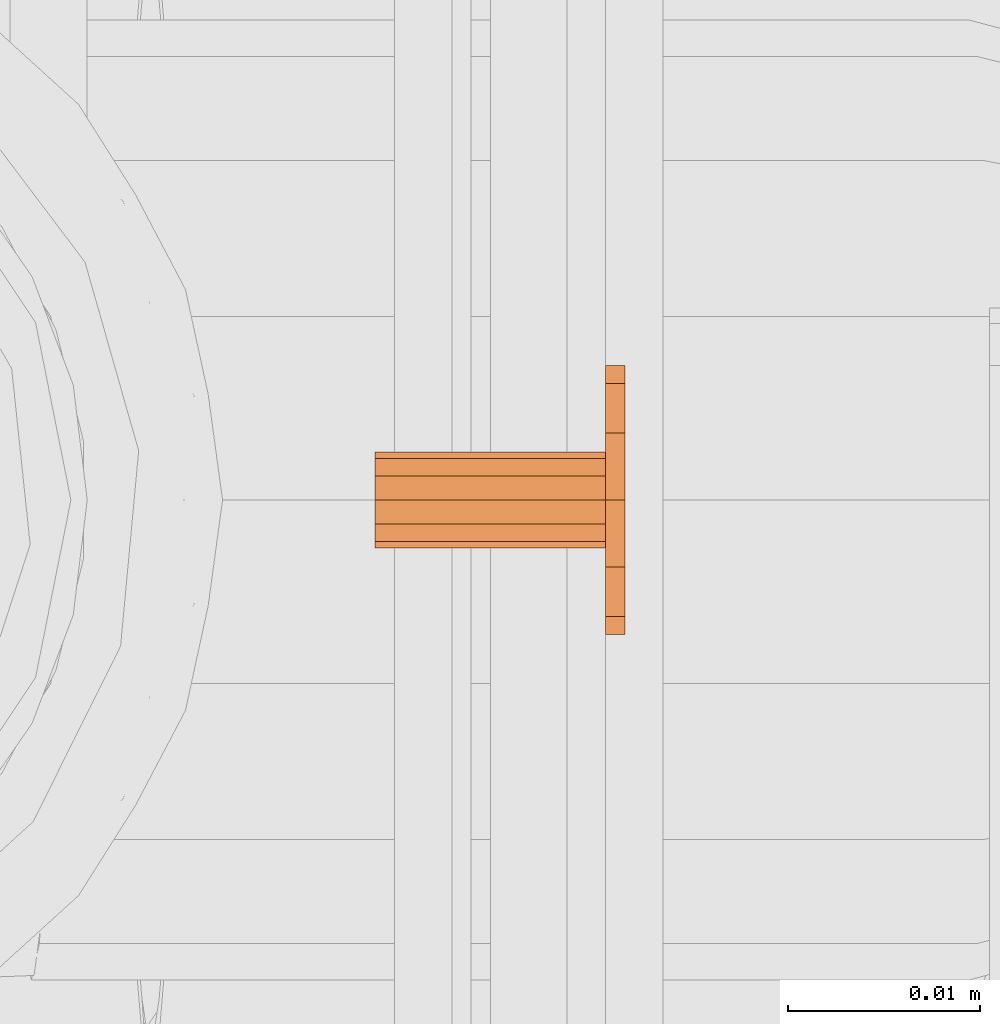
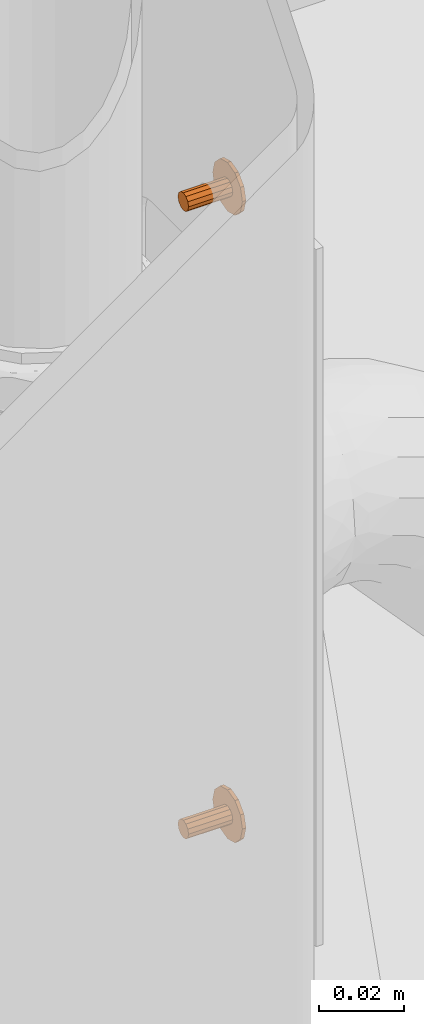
# One storey, part 130 of 162: 2 proxies.
"""IFC2X3 building model written with IfcOpenShell, lengths in millimetres."""

import ifcopenshell
import ifcopenshell.guid

model = None  # the IFC model being written
_history = None  # IfcOwnerHistory: only IFC2X3 demands one
_inside = {}  # id of a spatial element -> (the spatial element, [elements in it])
_under = {}  # id of a project, library or spatial element -> (it, [spatial elements below it])
_declared = {}  # id of a project -> (the project, [libraries it declares])
_typed = {}  # id of a type object -> (the type object, [elements of that type])
_made_of = {}  # id of a material, layer set ... -> (it, [elements and type objects made of it])


def new_model(schema):
    """Start an empty IFC model of exactly this schema.

    Asked for "IFC4X3", IfcOpenShell would pick the latest addendum, in which some entities
    have other attributes; the version numbers below select the first issue.
    IFC2X3 requires an IfcOwnerHistory on every rooted entity: one is made here for all.
    """
    global model, _history
    if schema == "IFC4X3":
        model = ifcopenshell.file(schema_version=(4, 3, 0, 0))
    else:
        model = ifcopenshell.file(schema=schema)
    _inside.clear()
    _under.clear()
    _declared.clear()
    _typed.clear()
    _made_of.clear()
    _history = None
    if model.schema == "IFC2X3":
        org = make("IfcOrganization", Name="unknown")
        user = make(
            "IfcPersonAndOrganization",
            ThePerson=make("IfcPerson", FamilyName="unknown"),
            TheOrganization=org,
        )
        app = make(
            "IfcApplication",
            ApplicationDeveloper=org,
            Version="unknown",
            ApplicationFullName="unknown",
            ApplicationIdentifier="unknown",
        )
        _history = make(
            "IfcOwnerHistory",
            OwningUser=user,
            OwningApplication=app,
            ChangeAction="ADDED",
            CreationDate=0,
        )
    return model


def make(cls, **values):
    """One entity of the class cls with the attributes given. An attribute that is None is left unset."""
    return model.create_entity(
        cls, **{name: value for name, value in values.items() if value is not None}
    )


def entity(cls, *values):
    """Any entity or typed value of the class cls, its attributes in the order of the schema. None: left unset."""
    e = model.create_entity(cls)
    for i, value in enumerate(values):
        if value is not None:
            e[i] = value
    return e


def rooted(cls, **values):
    """An entity with a GlobalId (a new one), such as an element, a storey or a relation."""
    return make(cls, GlobalId=ifcopenshell.guid.new(), OwnerHistory=_history, **values)


def si_unit(unit_type, name, prefix=None):
    """IfcSIUnit, for example si_unit("LENGTHUNIT", "METRE", prefix="MILLI")."""
    return make("IfcSIUnit", UnitType=unit_type, Prefix=prefix, Name=name)


def converted_unit(unit_type, name, factor, base, dimensions=None, offset=None):
    """IfcConversionBasedUnit, such as the inch: factor (a typed value) times the base unit."""
    return make(
        "IfcConversionBasedUnit"
        if offset is None
        else "IfcConversionBasedUnitWithOffset",
        ConversionOffset=offset,
        Dimensions=None
        if dimensions is None
        else entity("IfcDimensionalExponents", *dimensions),
        UnitType=unit_type,
        Name=name,
        ConversionFactor=make(
            "IfcMeasureWithUnit", ValueComponent=factor, UnitComponent=base
        ),
    )


def assignment(units):
    """IfcUnitAssignment: the units of a project."""
    return None if units is None else make("IfcUnitAssignment", Units=units)


def point(xyz):
    """IfcCartesianPoint."""
    return None if xyz is None else make("IfcCartesianPoint", Coordinates=xyz)


def direction(xyz):
    """IfcDirection."""
    return None if xyz is None else make("IfcDirection", DirectionRatios=xyz)


def frame(location, z_axis=None, x_axis=None):
    """IfcAxis2Placement3D, a coordinate frame: its origin and axes. An axis left out is left unset."""
    return make(
        "IfcAxis2Placement3D",
        Location=point(location),
        Axis=direction(z_axis),
        RefDirection=direction(x_axis),
    )


def origin_with_axes():
    """The frame at (0, 0, 0) with the z axis (0, 0, 1) and the x axis (1, 0, 0) written out."""
    return frame((0.0, 0.0, 0.0), z_axis=(0.0, 0.0, 1.0), x_axis=(1.0, 0.0, 0.0))


def place(relative_to, where):
    """IfcLocalPlacement: puts the frame where relative to a parent placement (None: the world)."""
    return make(
        "IfcLocalPlacement", PlacementRelTo=relative_to, RelativePlacement=where
    )


def context(
    kind, dimensions, precision=None, world=None, true_north=None, identifier=None
):
    """IfcGeometricRepresentationContext, for example the 3D "Model" context."""
    return make(
        "IfcGeometricRepresentationContext",
        ContextIdentifier=identifier,
        ContextType=kind,
        CoordinateSpaceDimension=dimensions,
        Precision=precision,
        WorldCoordinateSystem=world,
        TrueNorth=true_north,
    )


def project(units=None, contexts=None):
    """IfcProject with its units and contexts."""
    return rooted(
        "IfcProject",
        Name="project",
        RepresentationContexts=contexts,
        UnitsInContext=assignment(units),
    )


def spatial(cls, under=None, at=None, **own):
    """A site, building, storey or space (cls), placed at a placement, below another one or the project."""
    s = rooted(cls, ObjectPlacement=at, **own)
    if under is not None:
        _under.setdefault(under.id(), (under, []))[1].append(s)
    return s


def faces_of(points, faces, orient=None, outer=None):
    """IfcFace entities. A face is a list of loops; a loop is a list of indices into points, from 0.

    orient and outer hold one flag for each loop. By default every Orientation is true, the
    first loop of a face is its IfcFaceOuterBound and the others are IfcFaceBound.
    """
    made = []
    for i, loops in enumerate(faces):
        bounds = []
        for j, loop in enumerate(loops):
            is_outer = j == 0 if outer is None else outer[i][j]
            bounds.append(
                make(
                    "IfcFaceOuterBound" if is_outer else "IfcFaceBound",
                    Bound=make("IfcPolyLoop", Polygon=[points[k] for k in loop]),
                    Orientation=True if orient is None else orient[i][j],
                )
            )
        made.append(make("IfcFace", Bounds=bounds))
    return made


def faceted_brep(points, faces, orient=None, outer=None, voids=None):
    """IfcFacetedBrep: a solid bounded by flat faces; with voids (closed shells), ...WithVoids."""
    shared = [point(p) for p in points]
    hull = make("IfcClosedShell", CfsFaces=faces_of(shared, faces, orient, outer))
    if voids is None:
        return make("IfcFacetedBrep", Outer=hull)
    return make(
        "IfcFacetedBrepWithVoids",
        Outer=hull,
        Voids=[
            make(cls, CfsFaces=faces_of(shared, fs, o, b)) for cls, fs, o, b in voids
        ],
    )


def shape(context_of_items, identifier, shape_type, items):
    """IfcShapeRepresentation: the items that make up one representation, for example the "Body"."""
    return make(
        "IfcShapeRepresentation",
        ContextOfItems=context_of_items,
        RepresentationIdentifier=identifier,
        RepresentationType=shape_type,
        Items=items,
    )


def material(Name=None, Category=None):
    """IfcMaterial."""
    return make("IfcMaterial", Name=Name, Category=Category)


def made_of(thing, what):
    """Note that an element or type object is made of a material, layer set ...; save() writes the relation."""
    if what is not None:
        _made_of.setdefault(what.id(), (what, []))[1].append(thing)
    return thing


def element(
    cls,
    number,
    at=None,
    inside=None,
    cuts=None,
    type_object=None,
    material=None,
    context=None,
    identifier="Body",
    shape_type=None,
    held_by="IfcProductDefinitionShape",
    body=None,
    shapes=None,
    **own,
):
    """One element of the class cls, such as IfcWall. Its Tag is "e" and its number.

    at: its placement. inside: the storey or other place that contains it. cuts: it is an
    opening in that element (IfcRelVoidsElement). A single representation is given by context,
    identifier, shape_type and body (its items); several are given by shapes. held_by: the class
    of the entity that holds the representations. save() writes the other relations.
    """
    e = rooted(cls, Tag="e%d" % number, ObjectPlacement=at, **own)
    if body is not None:
        shapes = [shape(context, identifier, shape_type, body)]
    if shapes is not None:
        e.Representation = make(held_by, Representations=shapes)
    if inside is not None:
        _inside.setdefault(inside.id(), (inside, []))[1].append(e)
    if cuts is not None:
        rooted(
            "IfcRelVoidsElement", RelatingBuildingElement=cuts, RelatedOpeningElement=e
        )
    if type_object is not None:
        _typed.setdefault(type_object.id(), (type_object, []))[1].append(e)
    return made_of(e, material)


def aggregate(whole, parts):
    """IfcRelAggregates: a whole, such as a stair, and the parts it consists of."""
    return rooted("IfcRelAggregates", RelatingObject=whole, RelatedObjects=parts)


def save(model, path):
    """Write the relations noted so far, then the file.

    IfcRelAggregates (storeys below a building ...), IfcRelContainedInSpatialStructure (elements
    in a storey), IfcRelDefinesByType, IfcRelAssociatesMaterial and IfcRelDeclares: one each for
    every whole, place, type object, material and project.
    """
    for whole, parts in _under.values():
        aggregate(whole, parts)
    for where, things in _inside.values():
        rooted(
            "IfcRelContainedInSpatialStructure",
            RelatedElements=things,
            RelatingStructure=where,
        )
    for kind, things in _typed.values():
        rooted("IfcRelDefinesByType", RelatedObjects=things, RelatingType=kind)
    for what, things in _made_of.values():
        rooted("IfcRelAssociatesMaterial", RelatedObjects=things, RelatingMaterial=what)
    for by, libraries in _declared.values():
        rooted("IfcRelDeclares", RelatingContext=by, RelatedDefinitions=libraries)
    model.write(path)


model = new_model("IFC2X3")

# Units and contexts
model_context = context("Model", 3, precision=1e-09, world=origin_with_axes())
ifc_project = project(units=[si_unit("LENGTHUNIT", "METRE", prefix="MILLI"), si_unit("AREAUNIT", "SQUARE_METRE"), si_unit("VOLUMEUNIT", "CUBIC_METRE"), converted_unit("PLANEANGLEUNIT", "DEGREE", entity("IfcPlaneAngleMeasure", 0.01745329), si_unit("PLANEANGLEUNIT", "RADIAN"), dimensions=[0, 0, 0, 0, 0, 0, 0])], contexts=[model_context])

# Site, building, storey
site_placement = place(None, origin_with_axes())
site = spatial("IfcSite", under=ifc_project, at=site_placement, Name="Hermannstra?e 1a, 60318 Frankfurt", CompositionType="ELEMENT")
building_placement = place(site_placement, origin_with_axes())
building = spatial("IfcBuilding", under=site, at=building_placement, Name="Struktur 1", CompositionType="ELEMENT")
storey_placement = place(building_placement, origin_with_axes())
storey = spatial("IfcBuildingStorey", under=building, at=storey_placement, Name="Default Storey", CompositionType="ELEMENT", Elevation=0.0)

# Proxies
ifc_material = material(Name="Kein")
proxy_1_placement = place(None, origin_with_axes())
element("IfcBuildingElementProxy", 1, at=proxy_1_placement, inside=storey, material=ifc_material, ObjectType="-", context=model_context, shape_type="Brep", body=[
    faceted_brep([(5526.309368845, 1523.609369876, 150.0), (5525.309368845, 1523.609369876, 150.0), (5525.309368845, 1524.54719205, 146.5), (5526.309368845, 1524.54719205, 146.5), (5526.309368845, 1524.54719205, 153.5), (5525.309368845, 1524.54719205, 153.5), (5526.309368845, 1536.671547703, 153.5), (5526.309368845, 1534.109369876, 156.062177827), (5526.309368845, 1530.609369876, 157.0), (5526.309368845, 1527.109369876, 156.062177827), (5526.309368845, 1527.109369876, 143.937822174), (5526.309368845, 1530.609369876, 143.0), (5526.309368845, 1534.109369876, 143.937822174), (5526.309368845, 1536.671547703, 146.5), (5526.309368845, 1537.609369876, 150.0), (5525.309368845, 1536.671547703, 146.5), (5525.309368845, 1534.109369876, 143.937822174), (5525.309368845, 1530.609369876, 143.0), (5525.309368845, 1527.109369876, 143.937822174), (5525.309368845, 1527.109369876, 156.062177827), (5525.309368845, 1530.609369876, 157.0), (5525.309368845, 1534.109369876, 156.062177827), (5525.309368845, 1536.671547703, 153.5), (5525.309368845, 1537.609369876, 150.0)], [[[0, 1, 2, 3]], [[1, 0, 4, 5]], [[6, 7, 8, 9, 4, 0, 3, 10, 11, 12, 13, 14]], [[15, 16, 17, 18, 2, 1, 5, 19, 20, 21, 22, 23]], [[3, 2, 18, 10]], [[5, 4, 9, 19]], [[17, 11, 10, 18]], [[16, 12, 11, 17]], [[19, 9, 8, 20]], [[13, 15, 23, 14]], [[12, 16, 15, 13]], [[14, 23, 22, 6]], [[20, 8, 7, 21]], [[6, 22, 21, 7]]]),
    faceted_brep([(5525.309368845, 1528.109369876, 150.0), (5513.309368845, 1528.109369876, 150.0), (5513.309368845, 1528.444306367, 148.75), (5525.309368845, 1528.444306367, 148.75), (5525.309368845, 1528.444306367, 151.25), (5513.309368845, 1528.444306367, 151.25), (5525.309368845, 1532.774433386, 151.25), (5525.309368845, 1531.859369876, 152.16506351), (5525.309368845, 1530.609369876, 152.5), (5525.309368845, 1529.359369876, 152.16506351), (5525.309368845, 1529.359369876, 147.834936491), (5525.309368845, 1530.609369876, 147.5), (5525.309368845, 1531.859369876, 147.834936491), (5525.309368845, 1532.774433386, 148.75), (5525.309368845, 1533.109369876, 150.0), (5513.309368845, 1532.774433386, 148.75), (5513.309368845, 1531.859369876, 147.834936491), (5513.309368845, 1530.609369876, 147.5), (5513.309368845, 1529.359369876, 147.834936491), (5513.309368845, 1529.359369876, 152.16506351), (5513.309368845, 1530.609369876, 152.5), (5513.309368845, 1531.859369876, 152.16506351), (5513.309368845, 1532.774433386, 151.25), (5513.309368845, 1533.109369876, 150.0)], [[[0, 1, 2, 3]], [[1, 0, 4, 5]], [[6, 7, 8, 9, 4, 0, 3, 10, 11, 12, 13, 14]], [[15, 16, 17, 18, 2, 1, 5, 19, 20, 21, 22, 23]], [[3, 2, 18, 10]], [[5, 4, 9, 19]], [[17, 11, 10, 18]], [[16, 12, 11, 17]], [[19, 9, 8, 20]], [[13, 15, 23, 14]], [[12, 16, 15, 13]], [[14, 23, 22, 6]], [[20, 8, 7, 21]], [[6, 22, 21, 7]]]),
])
proxy_2_placement = place(None, origin_with_axes())
element("IfcBuildingElementProxy", 2, at=proxy_2_placement, inside=storey, material=ifc_material, ObjectType="-", context=model_context, shape_type="Brep", body=[
    faceted_brep([(5526.309368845, 1523.609369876, 330.0), (5525.309368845, 1523.609369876, 330.0), (5525.309368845, 1524.54719205, 326.5), (5526.309368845, 1524.54719205, 326.5), (5526.309368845, 1524.54719205, 333.5), (5525.309368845, 1524.54719205, 333.5), (5526.309368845, 1536.671547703, 333.5), (5526.309368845, 1534.109369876, 336.062177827), (5526.309368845, 1530.609369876, 337.0), (5526.309368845, 1527.109369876, 336.062177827), (5526.309368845, 1527.109369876, 323.937822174), (5526.309368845, 1530.609369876, 323.0), (5526.309368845, 1534.109369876, 323.937822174), (5526.309368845, 1536.671547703, 326.5), (5526.309368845, 1537.609369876, 330.0), (5525.309368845, 1536.671547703, 326.5), (5525.309368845, 1534.109369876, 323.937822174), (5525.309368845, 1530.609369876, 323.0), (5525.309368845, 1527.109369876, 323.937822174), (5525.309368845, 1527.109369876, 336.062177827), (5525.309368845, 1530.609369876, 337.0), (5525.309368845, 1534.109369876, 336.062177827), (5525.309368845, 1536.671547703, 333.5), (5525.309368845, 1537.609369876, 330.0)], [[[0, 1, 2, 3]], [[1, 0, 4, 5]], [[6, 7, 8, 9, 4, 0, 3, 10, 11, 12, 13, 14]], [[15, 16, 17, 18, 2, 1, 5, 19, 20, 21, 22, 23]], [[3, 2, 18, 10]], [[5, 4, 9, 19]], [[17, 11, 10, 18]], [[16, 12, 11, 17]], [[19, 9, 8, 20]], [[13, 15, 23, 14]], [[12, 16, 15, 13]], [[14, 23, 22, 6]], [[20, 8, 7, 21]], [[6, 22, 21, 7]]]),
    faceted_brep([(5525.309368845, 1528.109369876, 330.0), (5513.309368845, 1528.109369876, 330.0), (5513.309368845, 1528.444306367, 328.75), (5525.309368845, 1528.444306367, 328.75), (5525.309368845, 1528.444306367, 331.25), (5513.309368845, 1528.444306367, 331.25), (5525.309368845, 1532.774433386, 331.25), (5525.309368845, 1531.859369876, 332.16506351), (5525.309368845, 1530.609369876, 332.5), (5525.309368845, 1529.359369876, 332.16506351), (5525.309368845, 1529.359369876, 327.834936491), (5525.309368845, 1530.609369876, 327.5), (5525.309368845, 1531.859369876, 327.834936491), (5525.309368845, 1532.774433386, 328.75), (5525.309368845, 1533.109369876, 330.0), (5513.309368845, 1532.774433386, 328.75), (5513.309368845, 1531.859369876, 327.834936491), (5513.309368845, 1530.609369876, 327.5), (5513.309368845, 1529.359369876, 327.834936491), (5513.309368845, 1529.359369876, 332.16506351), (5513.309368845, 1530.609369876, 332.5), (5513.309368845, 1531.859369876, 332.16506351), (5513.309368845, 1532.774433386, 331.25), (5513.309368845, 1533.109369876, 330.0)], [[[0, 1, 2, 3]], [[1, 0, 4, 5]], [[6, 7, 8, 9, 4, 0, 3, 10, 11, 12, 13, 14]], [[15, 16, 17, 18, 2, 1, 5, 19, 20, 21, 22, 23]], [[3, 2, 18, 10]], [[5, 4, 9, 19]], [[17, 11, 10, 18]], [[16, 12, 11, 17]], [[19, 9, 8, 20]], [[13, 15, 23, 14]], [[12, 16, 15, 13]], [[14, 23, 22, 6]], [[20, 8, 7, 21]], [[6, 22, 21, 7]]]),
])

save(model, "model.ifc")
